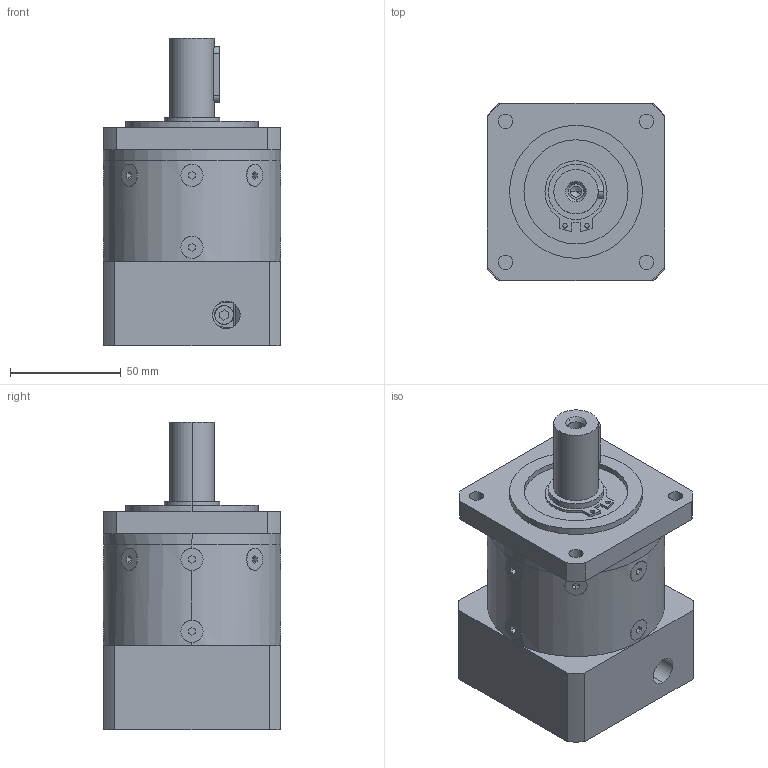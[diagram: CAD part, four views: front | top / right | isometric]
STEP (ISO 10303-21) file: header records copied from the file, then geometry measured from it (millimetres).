
FILE_DESCRIPTION (( 'STEP AP203' ), '1' );
FILE_NAME ('PLF080-L1塋拊佴杻ANDANTEX.STEP', '2021-04-12T14:11:52', ( 'Windows User' ), ( 'P R C' ), 'SwSTEP 2.0', 'SolidWorks 2016', '' );
FILE_SCHEMA (( 'CONFIG_CONTROL_DESIGN' ));
Length unit declared in the file: millimetre
Products named in the file (8): 粣創-6006 30x55x13; PLF080-L1塋拊佴杻ANDANTEX; PLF80 蟀諉啣-梓袧; PLF80 薊粣ん_D7-19 梓袧; PLF80 内齿圈-B版_一级内齿圈; PLF80 奻屳唳; 囀鞠褒蹟佪-M5℅20; 邧埴瑩 6x6x25
Assembly tree (7 placements, depth 2):
  PLF080-L1塋拊佴杻ANDANTEX
    PLF80 蟀諉啣-梓袧
    PLF80 薊粣ん_D7-19 梓袧
    PLF80 内齿圈-B版_一级内齿圈
    PLF80 奻屳唳
    囀鞠褒蹟佪-M5℅20
    邧埴瑩 6x6x25
    粣創-6006 30x55x13
Bounding box: 80.1 x 80.1 x 139 mm (x, y, z)
Volume: 495824 mm3; surface area: 112278.5 mm2
Topology: 7 solids, 7 shells, 994 faces, 2745 edges, 1795 vertices
Faces by surface type: plane 545, bspline 237, cylinder 188, cone 24
Entity records: 41602 total; most frequent: CARTESIAN_POINT 17063, ORIENTED_EDGE 5366, DIRECTION 4253, EDGE_CURVE 2683, VERTEX_POINT 1795, AXIS2_PLACEMENT_3D 1432, VECTOR 1389, LINE 1389
